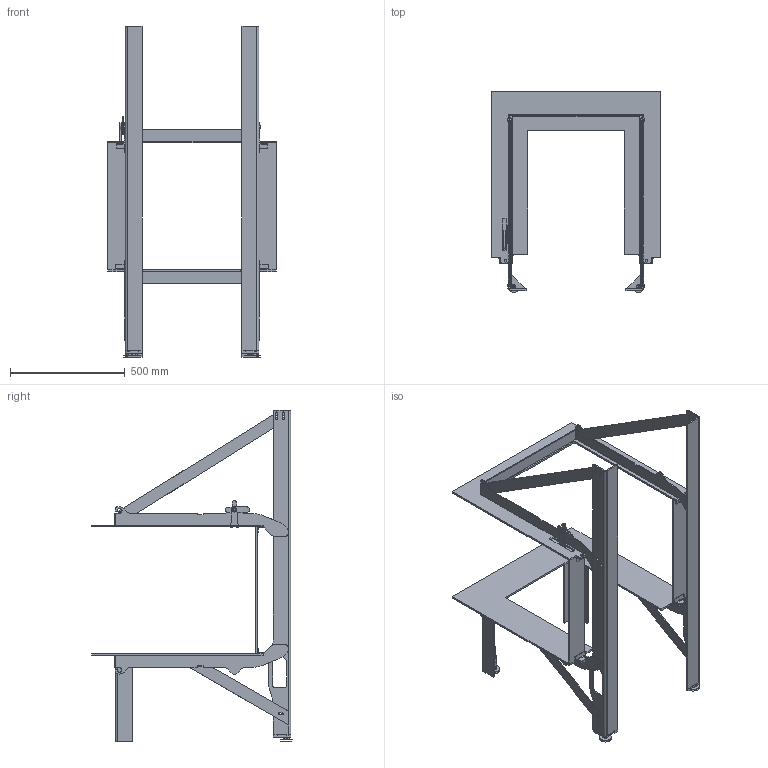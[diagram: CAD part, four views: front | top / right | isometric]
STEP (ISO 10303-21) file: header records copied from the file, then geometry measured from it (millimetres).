
FILE_DESCRIPTION(/* description */ (''),/* implementation_level */ '2;1');
FILE_NAME(/* name */ 'C:\ADSK_DM_WS\CAD_3D\03 Geraete\RIII 55x56x60\Zeichnungen\RIII 55x56x60 Einbaurahmen freistehend CAD Planung defriten 2017-03270 190919.stp',/* time_stamp */ '2019-09-19T11:34:11+02:00',/* author */ ('cpi'),/* organization */ (''),/* preprocessor_version */ 'ST-DEVELOPER v17.2',/* originating_system */ 'Autodesk Inventor 2019',/* authorisation */ '');
FILE_SCHEMA (('AUTOMOTIVE_DESIGN { 1 0 10303 214 3 1 1 }'));
Length unit declared in the file: millimetre
Products named in the file (1): 2019-02755
Bounding box: 735 x 871.44 x 1443.5 mm (x, y, z)
Volume: 9476047.9 mm3; surface area: 3074265.3 mm2
Topology: 5 solids, 5 shells, 1029 faces, 2909 edges, 1870 vertices
Faces by surface type: plane 557, cylinder 404, cone 68
Full cylindrical faces by diameter (mm): 10 x5, 10.21 x2, 10.4 x1, 10.5 x15, 16 x6, 17 x2, 20 x2, 25 x2, 30 x4
Entity records: 34783 total; most frequent: CARTESIAN_POINT 6513, ORIENTED_EDGE 5818, DIRECTION 5805, EDGE_CURVE 2909, AXIS2_PLACEMENT_3D 2034, VERTEX_POINT 1870, LINE 1737, VECTOR 1737
